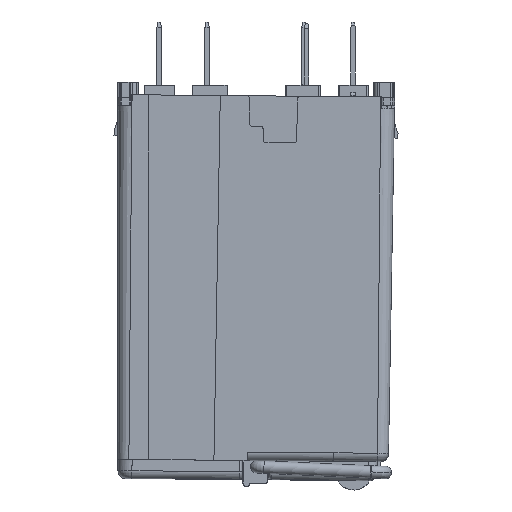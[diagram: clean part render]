
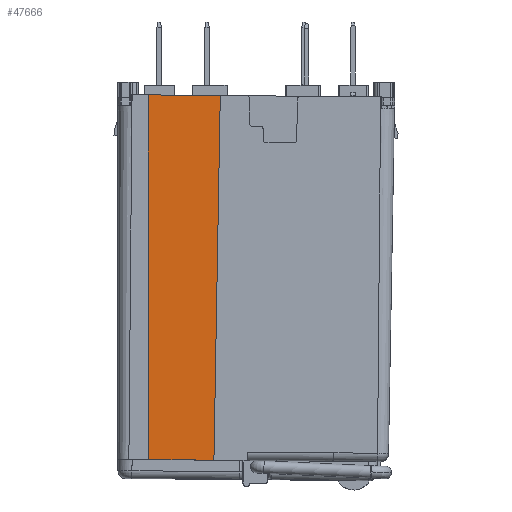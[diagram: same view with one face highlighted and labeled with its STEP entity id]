
A CAD part, left-side view. The second image highlights one B-rep face of the part: STEP entity #47666.
In plain terms, the highlighted planar face has unit normal (-1, 0, -0.009).
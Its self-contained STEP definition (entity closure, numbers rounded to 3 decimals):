
#3529 = CARTESIAN_POINT ( 'NONE',  ( -21.25, 21.305, -2.23 ) ) ;
#4622 = VECTOR ( 'NONE', #29951, 1000. ) ;
#5104 = VERTEX_POINT ( 'NONE', #32961 ) ;
#5417 = CARTESIAN_POINT ( 'NONE',  ( -20.685, 9.635, -67.034 ) ) ;
#5596 = DIRECTION ( 'NONE',  ( 1., 0., 0.009 ) ) ;
#7781 = VERTEX_POINT ( 'NONE', #21426 ) ;
#8764 = FACE_OUTER_BOUND ( 'NONE', #14061, .T. ) ;
#10943 = CARTESIAN_POINT ( 'NONE',  ( -21.25, 24.155, -2.205 ) ) ;
#12101 = CARTESIAN_POINT ( 'NONE',  ( -20.685, 21.305, -66.932 ) ) ;
#12134 = EDGE_CURVE ( 'NONE', #5104, #7781, #37029, .T. ) ;
#14061 = EDGE_LOOP ( 'NONE', ( #51933, #52466, #51160, #39367, #24621, #22849 ) ) ;
#14146 = CARTESIAN_POINT ( 'NONE',  ( -21.25, 8.506, -2.341 ) ) ;
#14430 = VERTEX_POINT ( 'NONE', #17408 ) ;
#14522 = AXIS2_PLACEMENT_3D ( 'NONE', #5417, #5596, #36343 ) ;
#15638 = EDGE_CURVE ( 'NONE', #14430, #39178, #47149, .T. ) ;
#16513 = DIRECTION ( 'NONE',  ( -0.009, 0., 1. ) ) ;
#17408 = CARTESIAN_POINT ( 'NONE',  ( -20.685, 17.612, -66.962 ) ) ;
#17648 = LINE ( 'NONE', #43052, #4622 ) ;
#18419 = EDGE_CURVE ( 'NONE', #22874, #44838, #39221, .T. ) ;
#18556 = DIRECTION ( 'NONE',  ( 0.009, 0.017, -1. ) ) ;
#18727 = CARTESIAN_POINT ( 'NONE',  ( -20.685, 17.612, -66.964 ) ) ;
#21426 = CARTESIAN_POINT ( 'NONE',  ( -20.685, 9.635, -67.032 ) ) ;
#22849 = ORIENTED_EDGE ( 'NONE', *, *, #29663, .T. ) ;
#22874 = VERTEX_POINT ( 'NONE', #42974 ) ;
#22941 = DIRECTION ( 'NONE',  ( 0., 1., 0.009 ) ) ;
#24201 = DIRECTION ( 'NONE',  ( 0., 1., 0.009 ) ) ;
#24621 = ORIENTED_EDGE ( 'NONE', *, *, #12134, .F. ) ;
#27063 = VECTOR ( 'NONE', #24201, 1000. ) ;
#27497 = VECTOR ( 'NONE', #16513, 1000. ) ;
#28455 = LINE ( 'NONE', #10943, #27063 ) ;
#29663 = EDGE_CURVE ( 'NONE', #5104, #44838, #28455, .T. ) ;
#29951 = DIRECTION ( 'NONE',  ( 0., 1., 0.009 ) ) ;
#31894 = PLANE ( 'NONE',  #14522 ) ;
#32961 = CARTESIAN_POINT ( 'NONE',  ( -21.25, 8.506, -2.341 ) ) ;
#33307 = EDGE_CURVE ( 'NONE', #39178, #22874, #17648, .T. ) ;
#33425 = LINE ( 'NONE', #44918, #55398 ) ;
#36343 = DIRECTION ( 'NONE',  ( 0.009, 0., -1. ) ) ;
#37029 = LINE ( 'NONE', #14146, #50118 ) ;
#39178 = VERTEX_POINT ( 'NONE', #18727 ) ;
#39221 = LINE ( 'NONE', #12101, #27497 ) ;
#39367 = ORIENTED_EDGE ( 'NONE', *, *, #54416, .F. ) ;
#40569 = DIRECTION ( 'NONE',  ( 0.009, 0.007, -1. ) ) ;
#42974 = CARTESIAN_POINT ( 'NONE',  ( -20.685, 21.305, -66.932 ) ) ;
#43052 = CARTESIAN_POINT ( 'NONE',  ( -20.685, 17.612, -66.964 ) ) ;
#44376 = VECTOR ( 'NONE', #40569, 1000. ) ;
#44838 = VERTEX_POINT ( 'NONE', #3529 ) ;
#44918 = CARTESIAN_POINT ( 'NONE',  ( -20.685, 9.635, -67.032 ) ) ;
#44986 = CARTESIAN_POINT ( 'NONE',  ( -20.685, 17.612, -66.962 ) ) ;
#47149 = LINE ( 'NONE', #44986, #44376 ) ;
#47666 = ADVANCED_FACE ( 'NONE', ( #8764 ), #31894, .F. ) ;
#50118 = VECTOR ( 'NONE', #18556, 1000. ) ;
#51160 = ORIENTED_EDGE ( 'NONE', *, *, #15638, .F. ) ;
#51933 = ORIENTED_EDGE ( 'NONE', *, *, #18419, .F. ) ;
#52466 = ORIENTED_EDGE ( 'NONE', *, *, #33307, .F. ) ;
#54416 = EDGE_CURVE ( 'NONE', #7781, #14430, #33425, .T. ) ;
#55398 = VECTOR ( 'NONE', #22941, 1000. ) ;
